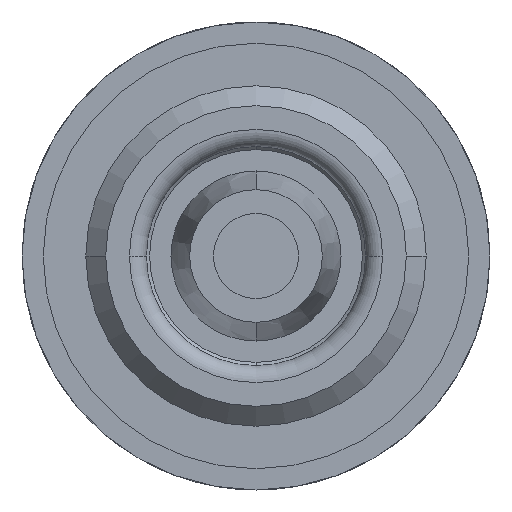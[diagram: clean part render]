
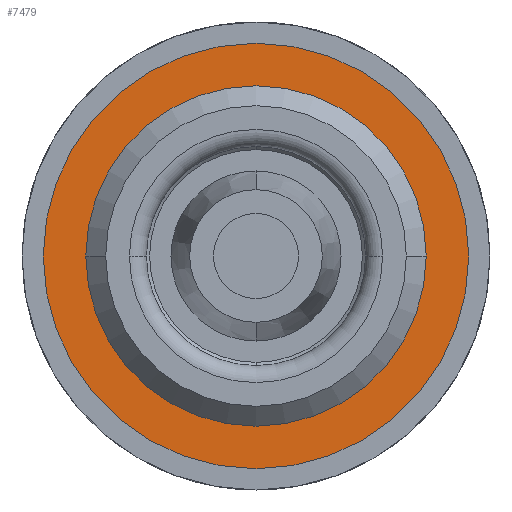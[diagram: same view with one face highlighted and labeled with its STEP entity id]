
A CAD part, front view. The second image highlights one B-rep face of the part: STEP entity #7479.
In plain terms, the highlighted planar face has unit normal (0, -1, 0) as drawn and (0, 0, -1) by its records, which use the part's own axes.
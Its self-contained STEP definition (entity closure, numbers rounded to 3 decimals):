
#83 = DIRECTION ( 'NONE',  ( 1., 0., 0. ) ) ;
#130 = VERTEX_POINT ( 'NONE', #4589 ) ;
#343 = DIRECTION ( 'NONE',  ( 1., 0., 0. ) ) ;
#727 = FACE_BOUND ( 'NONE', #10925, .T. ) ;
#1137 = CARTESIAN_POINT ( 'NONE',  ( 0., 0., 0. ) ) ;
#1241 = AXIS2_PLACEMENT_3D ( 'NONE', #5917, #12218, #4891 ) ;
#2026 = CARTESIAN_POINT ( 'NONE',  ( 0., 0., 0. ) ) ;
#2064 = ORIENTED_EDGE ( 'NONE', *, *, #10580, .F. ) ;
#2208 = VERTEX_POINT ( 'NONE', #11519 ) ;
#2511 = DIRECTION ( 'NONE',  ( 0., 0., 1. ) ) ;
#3365 = DIRECTION ( 'NONE',  ( 0., 0., 1. ) ) ;
#3389 = CIRCLE ( 'NONE', #7774, 7.75 ) ;
#3550 = ORIENTED_EDGE ( 'NONE', *, *, #5660, .T. ) ;
#3667 = CARTESIAN_POINT ( 'NONE',  ( 7.75, 0., 0. ) ) ;
#3748 = AXIS2_PLACEMENT_3D ( 'NONE', #9354, #3365, #10690 ) ;
#3754 = VERTEX_POINT ( 'NONE', #11781 ) ;
#3946 = DIRECTION ( 'NONE',  ( 1., 0., 0. ) ) ;
#4589 = CARTESIAN_POINT ( 'NONE',  ( -7.75, 0., 0. ) ) ;
#4891 = DIRECTION ( 'NONE',  ( 1., 0., 0. ) ) ;
#4935 = ORIENTED_EDGE ( 'NONE', *, *, #7217, .T. ) ;
#5003 = CARTESIAN_POINT ( 'NONE',  ( 0., 0., 0. ) ) ;
#5660 = EDGE_CURVE ( 'NONE', #9020, #130, #9120, .T. ) ;
#5917 = CARTESIAN_POINT ( 'NONE',  ( 0., 0., 0. ) ) ;
#5984 = AXIS2_PLACEMENT_3D ( 'NONE', #5003, #11299, #3946 ) ;
#6363 = DIRECTION ( 'NONE',  ( 0., 0., 1. ) ) ;
#7217 = EDGE_CURVE ( 'NONE', #130, #9020, #3389, .T. ) ;
#7479 = ADVANCED_FACE ( 'NONE', ( #8773, #727 ), #7509, .F. ) ;
#7509 = PLANE ( 'NONE',  #3748 ) ;
#7774 = AXIS2_PLACEMENT_3D ( 'NONE', #1137, #6363, #83 ) ;
#8773 = FACE_OUTER_BOUND ( 'NONE', #10271, .T. ) ;
#9020 = VERTEX_POINT ( 'NONE', #3667 ) ;
#9120 = CIRCLE ( 'NONE', #10142, 7.75 ) ;
#9354 = CARTESIAN_POINT ( 'NONE',  ( 0., 0., 0. ) ) ;
#9810 = EDGE_CURVE ( 'NONE', #3754, #2208, #12695, .T. ) ;
#10142 = AXIS2_PLACEMENT_3D ( 'NONE', #2026, #2511, #343 ) ;
#10271 = EDGE_LOOP ( 'NONE', ( #12568, #2064 ) ) ;
#10580 = EDGE_CURVE ( 'NONE', #2208, #3754, #13154, .T. ) ;
#10690 = DIRECTION ( 'NONE',  ( 1., 0., 0. ) ) ;
#10925 = EDGE_LOOP ( 'NONE', ( #4935, #3550 ) ) ;
#11299 = DIRECTION ( 'NONE',  ( 0., 0., 1. ) ) ;
#11519 = CARTESIAN_POINT ( 'NONE',  ( 10., 0., 0. ) ) ;
#11781 = CARTESIAN_POINT ( 'NONE',  ( -10., 0., 0. ) ) ;
#12218 = DIRECTION ( 'NONE',  ( 0., 0., 1. ) ) ;
#12568 = ORIENTED_EDGE ( 'NONE', *, *, #9810, .F. ) ;
#12695 = CIRCLE ( 'NONE', #1241, 10. ) ;
#13154 = CIRCLE ( 'NONE', #5984, 10. ) ;
